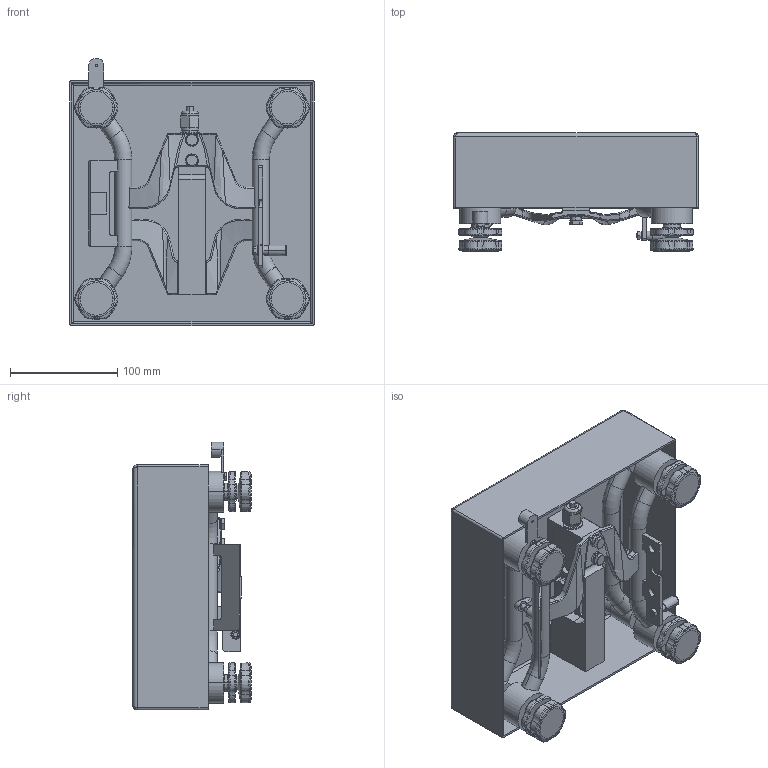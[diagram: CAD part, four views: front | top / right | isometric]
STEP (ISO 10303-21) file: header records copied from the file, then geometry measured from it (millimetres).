
FILE_DESCRIPTION((''),'2;1');
FILE_NAME('PBA639_PBD659_QA_SIZE','2022-03-16T10:05:19',('sun-135'),(''),'CREO PARAMETRIC BY PTC INC, 2018260','CREO PARAMETRIC BY PTC INC, 2018260','');
FILE_SCHEMA(('CONFIG_CONTROL_DESIGN'));
Products named in the file (1): PBA639_PBD659_QA_SIZE
Bounding box: 228 x 110 x 249 mm (x, y, z)
Volume: 743156 mm3; surface area: 462933 mm2
Topology: 5 solids, 78 shells, 3037 faces, 7280 edges, 4508 vertices
Faces by surface type: plane 1354, cylinder 658, cone 463, bspline 356, torus 198, sphere 8
Entity records: 109348 total; most frequent: CARTESIAN_POINT 42300, ORIENTED_EDGE 14321, DIRECTION 12826, EDGE_CURVE 7248, VERTEX_POINT 4508, AXIS2_PLACEMENT_3D 4490, VECTOR 3846, LINE 3846
